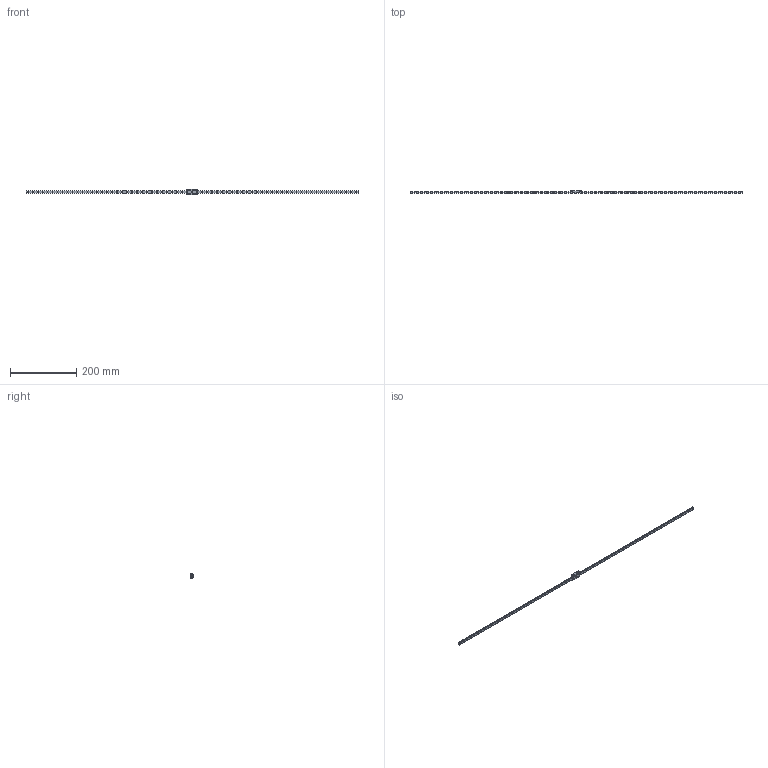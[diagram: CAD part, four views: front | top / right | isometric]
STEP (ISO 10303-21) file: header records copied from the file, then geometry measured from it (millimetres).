
FILE_DESCRIPTION((''),'2;1');
FILE_NAME('BMHS7-LU1Z0-1000-D0_1_ASM_1_ASM','2020-11-25T11:01:46',('TWVS2025'),(''),'CREO PARAMETRIC BY PTC INC, 2018420','CREO PARAMETRIC BY PTC INC, 2018420','');
FILE_SCHEMA(('CONFIG_CONTROL_DESIGN'));
Length unit declared in the file: millimetre
Products named in the file (3): IR-BMH7-1000_1_1; BC-BMHC7-LUS-Z0_1; BMHS7-LU1Z0-1000-D0_1_ASM_1_ASM
Assembly tree (2 placements, depth 2):
  BMHS7-LU1Z0-1000-D0_1_ASM_1_ASM
    IR-BMH7-1000_1_1
    BC-BMHC7-LUS-Z0_1
Bounding box: 1000 x 8 x 17 mm (x, y, z)
Volume: 31509.5 mm3; surface area: 29157.9 mm2
Topology: 2 solids, 6 shells, 965 faces, 2617 edges, 1659 vertices
Faces by surface type: cylinder 422, plane 305, cone 150, sphere 72, torus 16
Entity records: 32822 total; most frequent: CARTESIAN_POINT 7646, DIRECTION 5544, ORIENTED_EDGE 5094, EDGE_CURVE 2547, AXIS2_PLACEMENT_3D 2209, VERTEX_POINT 1659, CIRCLE 1239, EDGE_LOOP 1216
